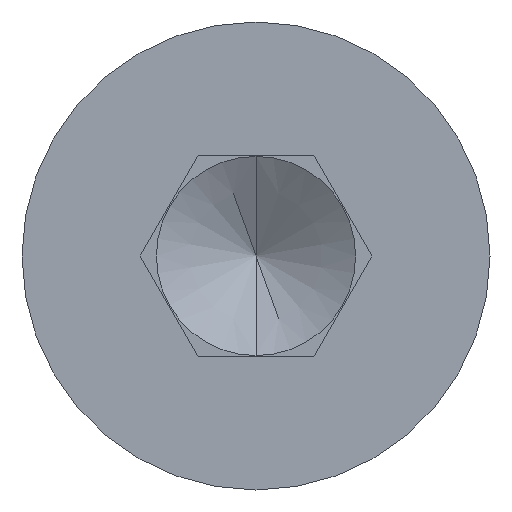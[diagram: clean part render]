
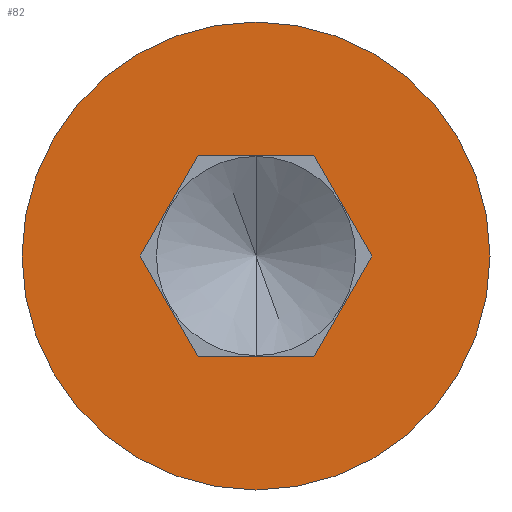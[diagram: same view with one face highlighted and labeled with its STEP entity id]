
A CAD part, left-side view. The second image highlights one B-rep face of the part: STEP entity #82.
In plain terms, the highlighted planar face has unit normal (-1, 0, 0).
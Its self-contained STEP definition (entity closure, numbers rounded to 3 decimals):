
#1 = VERTEX_POINT ( 'NONE', #302 ) ;
#5 = CARTESIAN_POINT ( 'NONE',  ( -4., 0., -3.5 ) ) ;
#12 = VERTEX_POINT ( 'NONE', #214 ) ;
#15 = DIRECTION ( 'NONE',  ( 0., 0., 1. ) ) ;
#18 = CARTESIAN_POINT ( 'NONE',  ( -4., 1.732, 0. ) ) ;
#19 = CIRCLE ( 'NONE', #277, 3.5 ) ;
#21 = DIRECTION ( 'NONE',  ( 0., 1., 0. ) ) ;
#29 = VERTEX_POINT ( 'NONE', #210 ) ;
#45 = DIRECTION ( 'NONE',  ( -1., 0., 0. ) ) ;
#47 = EDGE_CURVE ( 'NONE', #29, #509, #419, .T. ) ;
#66 = CARTESIAN_POINT ( 'NONE',  ( -4., -0.866, 1.5 ) ) ;
#82 = ADVANCED_FACE ( 'NONE', ( #434, #479 ), #504, .T. ) ;
#83 = VECTOR ( 'NONE', #423, 1000. ) ;
#90 = ORIENTED_EDGE ( 'NONE', *, *, #184, .F. ) ;
#93 = CIRCLE ( 'NONE', #181, 3.5 ) ;
#96 = VECTOR ( 'NONE', #229, 1000. ) ;
#104 = EDGE_LOOP ( 'NONE', ( #241, #410, #90, #156, #332, #484 ) ) ;
#128 = VECTOR ( 'NONE', #21, 1000. ) ;
#132 = VERTEX_POINT ( 'NONE', #5 ) ;
#138 = EDGE_CURVE ( 'NONE', #12, #29, #363, .T. ) ;
#147 = LINE ( 'NONE', #225, #252 ) ;
#148 = EDGE_CURVE ( 'NONE', #226, #198, #147, .T. ) ;
#156 = ORIENTED_EDGE ( 'NONE', *, *, #148, .F. ) ;
#160 = CARTESIAN_POINT ( 'NONE',  ( -4., 0., 3.5 ) ) ;
#171 = CARTESIAN_POINT ( 'NONE',  ( -4., 0., 0. ) ) ;
#181 = AXIS2_PLACEMENT_3D ( 'NONE', #171, #459, #218 ) ;
#184 = EDGE_CURVE ( 'NONE', #198, #12, #212, .T. ) ;
#196 = EDGE_CURVE ( 'NONE', #1, #226, #209, .T. ) ;
#198 = VERTEX_POINT ( 'NONE', #461 ) ;
#209 = LINE ( 'NONE', #18, #96 ) ;
#210 = CARTESIAN_POINT ( 'NONE',  ( -4., -0.866, 1.5 ) ) ;
#212 = LINE ( 'NONE', #469, #529 ) ;
#214 = CARTESIAN_POINT ( 'NONE',  ( -4., -1.732, 0. ) ) ;
#218 = DIRECTION ( 'NONE',  ( 0., 0., 1. ) ) ;
#224 = DIRECTION ( 'NONE',  ( 0., 0.5, 0.866 ) ) ;
#225 = CARTESIAN_POINT ( 'NONE',  ( -4., 0.866, -1.5 ) ) ;
#226 = VERTEX_POINT ( 'NONE', #298 ) ;
#229 = DIRECTION ( 'NONE',  ( 0., -0.5, -0.866 ) ) ;
#232 = EDGE_CURVE ( 'NONE', #509, #1, #420, .T. ) ;
#241 = ORIENTED_EDGE ( 'NONE', *, *, #47, .F. ) ;
#244 = CARTESIAN_POINT ( 'NONE',  ( -4., 0.866, 1.5 ) ) ;
#252 = VECTOR ( 'NONE', #264, 1000. ) ;
#256 = CARTESIAN_POINT ( 'NONE',  ( -4., -1.732, 0. ) ) ;
#264 = DIRECTION ( 'NONE',  ( 0., -1., 0. ) ) ;
#277 = AXIS2_PLACEMENT_3D ( 'NONE', #285, #45, #334 ) ;
#285 = CARTESIAN_POINT ( 'NONE',  ( -4., 0., 0. ) ) ;
#288 = ORIENTED_EDGE ( 'NONE', *, *, #448, .T. ) ;
#298 = CARTESIAN_POINT ( 'NONE',  ( -4., 0.866, -1.5 ) ) ;
#300 = DIRECTION ( 'NONE',  ( 0., -0.5, 0.866 ) ) ;
#302 = CARTESIAN_POINT ( 'NONE',  ( -4., 1.732, 0. ) ) ;
#332 = ORIENTED_EDGE ( 'NONE', *, *, #196, .F. ) ;
#334 = DIRECTION ( 'NONE',  ( 0., 0., 1. ) ) ;
#345 = DIRECTION ( 'NONE',  ( -1., 0., 0. ) ) ;
#347 = VERTEX_POINT ( 'NONE', #160 ) ;
#351 = VECTOR ( 'NONE', #224, 1000. ) ;
#355 = EDGE_LOOP ( 'NONE', ( #463, #288 ) ) ;
#363 = LINE ( 'NONE', #256, #351 ) ;
#410 = ORIENTED_EDGE ( 'NONE', *, *, #138, .F. ) ;
#416 = AXIS2_PLACEMENT_3D ( 'NONE', #466, #345, #15 ) ;
#419 = LINE ( 'NONE', #66, #128 ) ;
#420 = LINE ( 'NONE', #421, #83 ) ;
#421 = CARTESIAN_POINT ( 'NONE',  ( -4., 0.866, 1.5 ) ) ;
#423 = DIRECTION ( 'NONE',  ( 0., 0.5, -0.866 ) ) ;
#434 = FACE_BOUND ( 'NONE', #104, .T. ) ;
#448 = EDGE_CURVE ( 'NONE', #132, #347, #19, .T. ) ;
#459 = DIRECTION ( 'NONE',  ( -1., 0., 0. ) ) ;
#460 = EDGE_CURVE ( 'NONE', #347, #132, #93, .T. ) ;
#461 = CARTESIAN_POINT ( 'NONE',  ( -4., -0.866, -1.5 ) ) ;
#463 = ORIENTED_EDGE ( 'NONE', *, *, #460, .T. ) ;
#466 = CARTESIAN_POINT ( 'NONE',  ( -4., 0., 0. ) ) ;
#469 = CARTESIAN_POINT ( 'NONE',  ( -4., -0.866, -1.5 ) ) ;
#479 = FACE_OUTER_BOUND ( 'NONE', #355, .T. ) ;
#484 = ORIENTED_EDGE ( 'NONE', *, *, #232, .F. ) ;
#504 = PLANE ( 'NONE',  #416 ) ;
#509 = VERTEX_POINT ( 'NONE', #244 ) ;
#529 = VECTOR ( 'NONE', #300, 1000. ) ;
